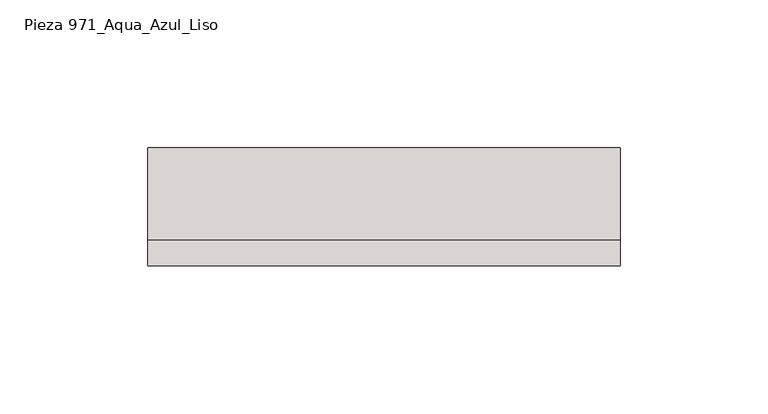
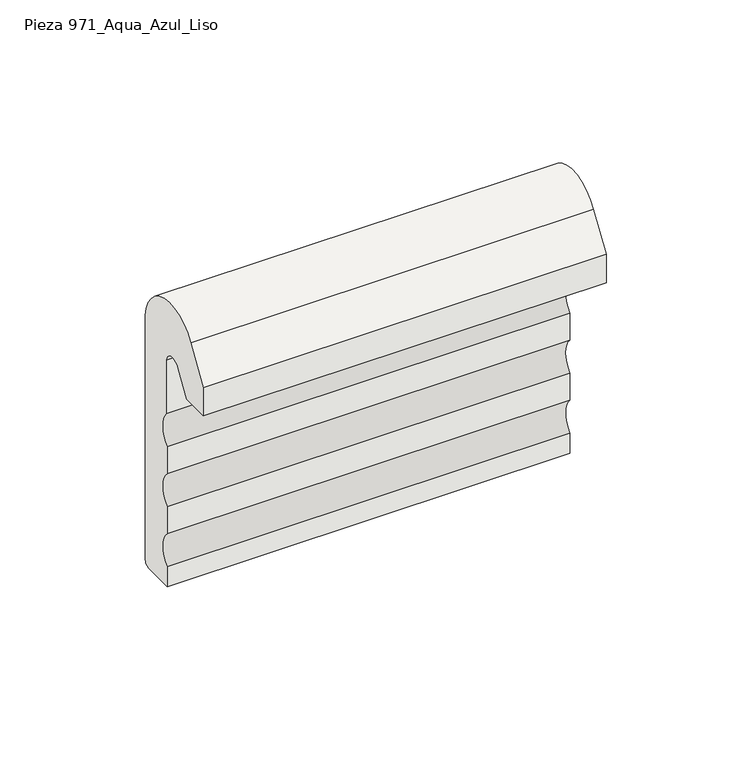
"""IFC4 building model written with IfcOpenShell, lengths in millimetres: slab geometry, ROSA GRES_971 : Pieza 971_Aqua_Azul_Liso."""

from ifc_helpers import new_model, si_unit, point, frame, frame_2d, origin, place, context, project, spatial, polyline, circle_curve, trimmed, segment, composite_curve, outline, extrude, source, transform, mapped, element, save


def pieza_971_aqua_azul_liso_813bb267(model_context):
    return source(origin(), model_context, "Body", "SweptSolid", [
        extrude(outline(composite_curve([segment(trimmed(circle_curve(frame_2d((-16.8529233, 144.6319512)), 16.9196478), [point((-31.1851409, 153.6242825))], [point((0.0, 146.1331033))], False, "CARTESIAN"), True, "CONTINUOUS"), segment(polyline([(0.0, 146.1331033), (0.0, 44.0250913)]), True, "CONTINUOUS"), segment(trimmed(circle_curve(frame_2d((-2.68, 44.0250913)), 2.68), [point((0.0, 44.0250913))], [point((-2.68, 41.3450913))], False, "CARTESIAN"), True, "CONTINUOUS"), segment(polyline([(-2.68, 41.3450913), (-15.0062809, 41.3450913), (-15.0062809, 49.6275439)]), True, "CONTINUOUS"), segment(trimmed(circle_curve(frame_2d((-21.3959123, 56.5905141)), 9.450415), [point((-15.0062809, 49.6275439))], [point((-14.9614723, 63.5120982))], True, "CARTESIAN"), True, "CONTINUOUS"), segment(polyline([(-14.9614723, 63.5120982), (-14.9614723, 74.8171516)]), True, "CONTINUOUS"), segment(trimmed(circle_curve(frame_2d((-21.3511036, 81.7801218)), 9.450415), [point((-14.9614723, 74.8171516))], [point((-14.9166636, 88.7017059))], True, "CARTESIAN"), True, "CONTINUOUS"), segment(polyline([(-14.9166636, 88.7017059), (-14.9166636, 100.0067593)]), True, "CONTINUOUS"), segment(trimmed(circle_curve(frame_2d((-21.3613471, 107.0507801)), 9.5473648), [point((-14.9166636, 100.0067593))], [point((-14.3481673, 113.5290116))], True, "CARTESIAN"), True, "CONTINUOUS"), segment(polyline([(-14.3481673, 113.5290116), (-14.3481673, 136.0931579)]), True, "CONTINUOUS"), segment(trimmed(circle_curve(frame_2d((-18.761148, 135.3324983)), 4.4780578), [point((-14.3481673, 136.0931579))], [point((-22.7114874, 137.4414839))], True, "CARTESIAN"), True, "CONTINUOUS"), segment(polyline([(-22.7114874, 137.4414839), (-28.5599154, 128.1510212), (-39.9975962, 128.1510212), (-39.9975962, 139.9882747), (-31.1851409, 153.6242825)]), True, "CONTINUOUS")], self_intersect=False)), frame((0.0, 0.0, 0.0), z_axis=(1.0, 0.0, 0.0), x_axis=(0.0, 1.0, 0.0)), (0.0, 0.0, 1.0), 160.0265886),
    ])


if __name__ == "__main__":
    model = new_model("IFC4")
    model_context = context("Model", 3, world=origin())
    ifc_project = project(units=[si_unit("LENGTHUNIT", "METRE", prefix="MILLI")], contexts=[model_context])
    site = spatial("IfcSite", under=ifc_project)
    building = spatial("IfcBuilding", under=site)
    placement = place(None, origin())
    pieza_971_aqua_azul_liso_shape = pieza_971_aqua_azul_liso_813bb267(model_context)
    element("IfcSlab", 1, ObjectType="ROSA GRES_971 : Pieza 971_Aqua_Azul_Liso", at=placement, inside=building, context=model_context, shape_type="MappedRepresentation", body=[
        mapped(pieza_971_aqua_azul_liso_shape, transform((0.0, 0.0, 0.0), x_axis=(1.0, 0.0, 0.0), y_axis=(0.0, 1.0, 0.0), z_axis=(0.0, 0.0, 1.0))),
    ])
    save(model, "model.ifc")
